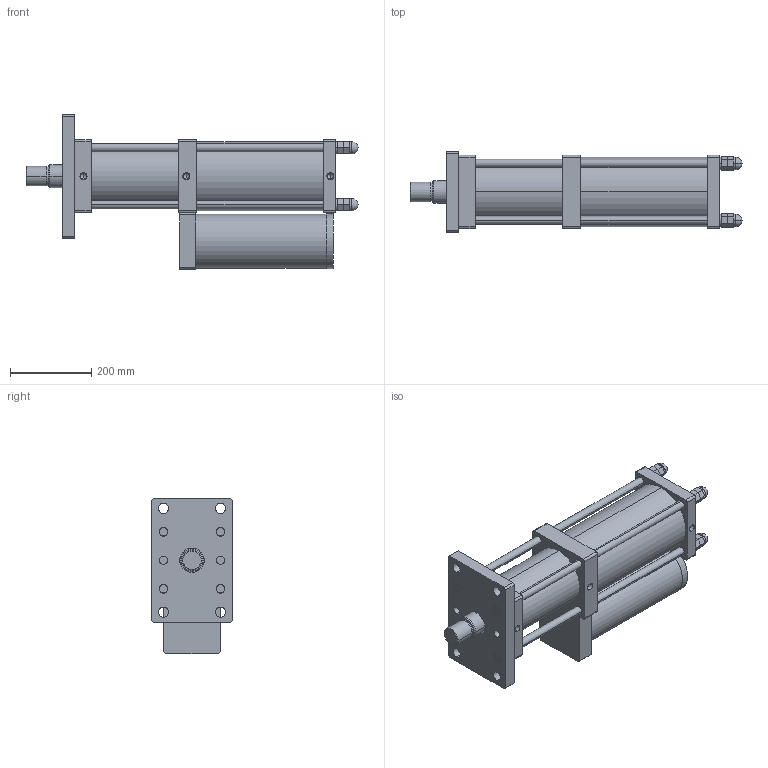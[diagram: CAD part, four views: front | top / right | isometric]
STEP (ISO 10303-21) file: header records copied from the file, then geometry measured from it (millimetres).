
FILE_DESCRIPTION (( 'STEP AP203' ), '1' );
FILE_NAME ('MPT-125-150-20-15T.STEP', '2016-03-12T01:27:12', ( 'WIN' ), ( '' ), 'SwSTEP 2.0', 'SolidWorks 2014', '' );
FILE_SCHEMA (( 'CONFIG_CONTROL_DESIGN' ));
Length unit declared in the file: millimetre
Products named in the file (1): MPT-125-150-20-15T
Bounding box: 816 x 200 x 382.5 mm (x, y, z)
Volume: 18518735.8 mm3; surface area: 1308058.2 mm2
Topology: 17 solids, 17 shells, 318 faces, 726 edges, 454 vertices
Faces by surface type: plane 154, cylinder 122, cone 30, sphere 8, torus 4
Entity records: 8889 total; most frequent: DIRECTION 1638, CARTESIAN_POINT 1467, ORIENTED_EDGE 1404, EDGE_CURVE 702, AXIS2_PLACEMENT_3D 617, VERTEX_POINT 446, VECTOR 404, LINE 404
